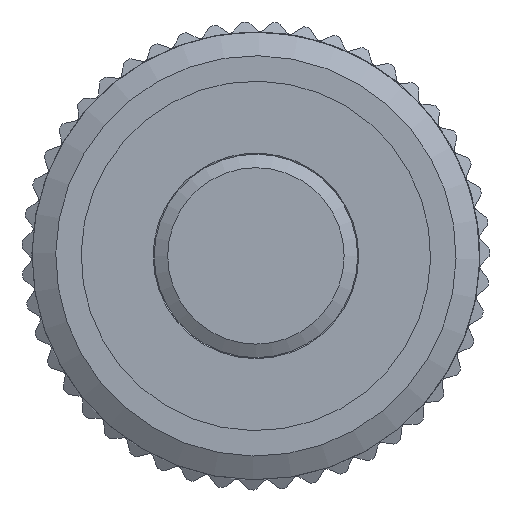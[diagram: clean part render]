
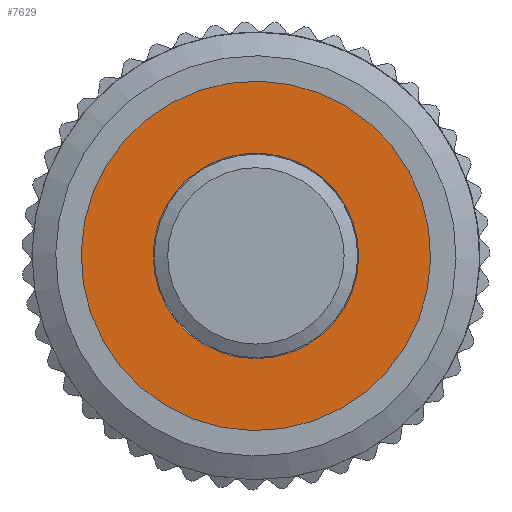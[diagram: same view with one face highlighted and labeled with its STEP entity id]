
A CAD part, left-side view. The second image highlights one B-rep face of the part: STEP entity #7629.
In plain terms, the highlighted planar face has unit normal (-1, 0, 0).
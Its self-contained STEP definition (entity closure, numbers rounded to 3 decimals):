
#1885=FACE_OUTER_BOUND($,#2389,.T.);
#2323=FACE_BOUND($,#2390,.T.);
#2389=EDGE_LOOP($,(#5085));
#2390=EDGE_LOOP($,(#5086));
#2846=CIRCLE($,#8093,5.15);
#2849=CIRCLE($,#8098,3.03);
#2986=VERTEX_POINT($,#10140);
#2989=VERTEX_POINT($,#10148);
#3820=EDGE_CURVE($,#2986,#2986,#2846,.T.);
#3823=EDGE_CURVE($,#2989,#2989,#2849,.T.);
#5085=ORIENTED_EDGE($,*,*,#3820,.T.);
#5086=ORIENTED_EDGE($,*,*,#3823,.F.);
#7458=PLANE($,#8097);
#7629=ADVANCED_FACE($,(#1885,#2323),#7458,.T.);
#8093=AXIS2_PLACEMENT_3D($,#10141,#8660,#8661);
#8097=AXIS2_PLACEMENT_3D($,#10147,#8668,#8669);
#8098=AXIS2_PLACEMENT_3D($,#10149,#8670,#8671);
#8660=DIRECTION('center_axis',(-1.,0.,0.));
#8661=DIRECTION('ref_axis',(0.,-0.779,0.626));
#8668=DIRECTION('center_axis',(-1.,0.,0.));
#8669=DIRECTION('ref_axis',(0.,-0.779,0.626));
#8670=DIRECTION('center_axis',(-1.,0.,0.));
#8671=DIRECTION('ref_axis',(0.,0.779,-0.626));
#10140=CARTESIAN_POINT('',(4.294,3.232,-3.226));
#10141=CARTESIAN_POINT('Origin',(4.294,-0.782,0.));
#10147=CARTESIAN_POINT('Origin',(4.294,-0.782,0.));
#10148=CARTESIAN_POINT('',(4.294,-3.143,1.898));
#10149=CARTESIAN_POINT('Origin',(4.294,-0.782,0.));
